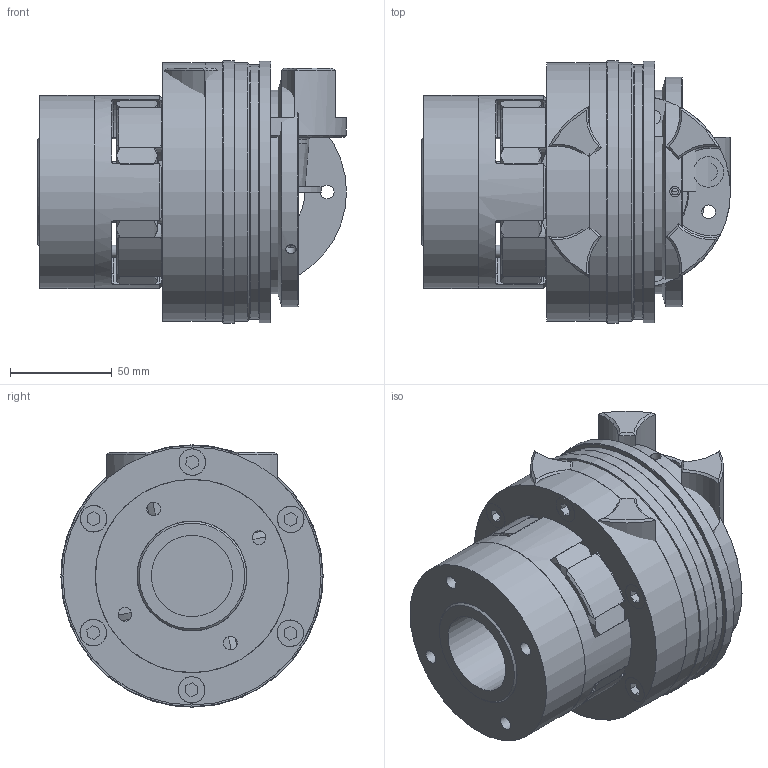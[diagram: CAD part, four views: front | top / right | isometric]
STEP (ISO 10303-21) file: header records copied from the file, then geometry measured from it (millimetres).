
FILE_DESCRIPTION( ( 'Unknown' ), '1' );
FILE_NAME( 'C:/Dokumente und Einstellungen/Sven/Desktop/hp kbk/E-AP/KBK EAP-42-147.stp', 'Unknown', ( 'Unknown' ), ( 'Unknown' ), 'XStep 1.0', 'Unknown', ' ' );
FILE_SCHEMA( ( 'automotive_design' ) );
Length unit declared in the file: millimetre
Products named in the file (17): Assem1; Assem2; Assem3; Assem4; ball_bearing_-_6013_0_01; ball_bearing_-_6013_0_02; ball_bearing_-_6013_0_03; Zylinderschraube DIN 912_6; KBK L-P-500 Grundkörper; Stellring 500; Druckring 500; Flansch 500; a_65; Elastormerflansch 42; Zahnkranz 42; KBE 3 - 42_Druckring; KBE 3 C- 42_Nabe
Bounding box: 152 x 129 x 129 mm (x, y, z)
Volume: 2034464.9 mm3; surface area: 560717.8 mm2
Topology: 35 solids, 35 shells, 823 faces, 1866 edges, 1207 vertices
Faces by surface type: cylinder 326, plane 252, cone 194, torus 51
Full cylindrical faces by diameter (mm): 3 x4, 3.242 x6, 5.1 x6, 5.2 x6, 6 x16, 6.647 x12, 6.8 x16, 8 x8, 8.2 x12, 8.8 x8, 13 x8, 13.1 x12, 15 x8, 40 x4, 46 x4, 58 x2, 62 x2, 65 x7, 76.3 x6, 86 x4, 89.1 x6, 91 x2, 95 x4, 100 x7, 104.5 x2, 113 x2, 114 x2, 125 x4, 127 x2, 129 x2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
Entity records: 10480 total; most frequent: CARTESIAN_POINT 2319, DIRECTION 1756, ORIENTED_EDGE 1332, AXIS2_PLACEMENT_3D 819, EDGE_CURVE 666, EDGE_LOOP 596, VERTEX_POINT 496, FACE_OUTER_BOUND 459
